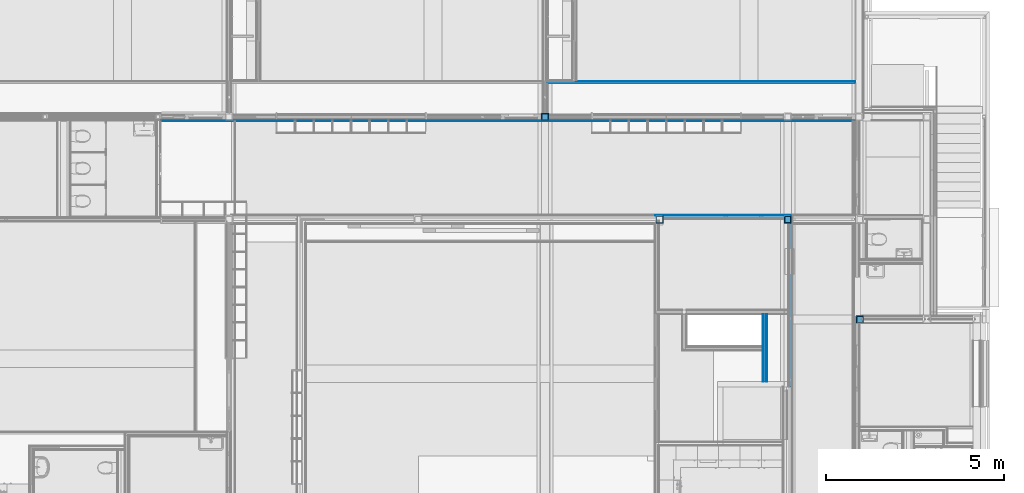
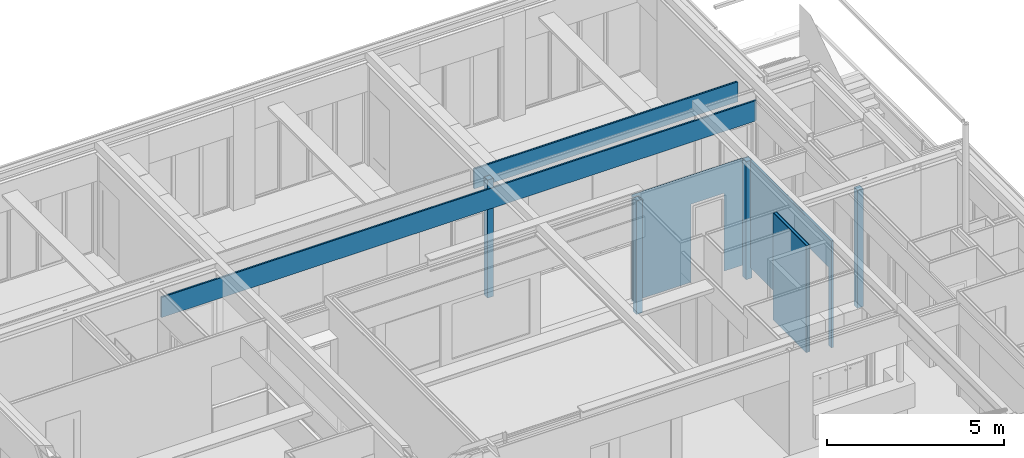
# One storey, part 88 of 165: 18 building element parts, 2 openings, 9 elements without a shape of their own.
"""IFC2X3 building model written with IfcOpenShell, lengths in millimetres."""

from ifc_helpers import new_model, entity, si_unit, converted_unit, derived_unit, money_unit, direction, frame, origin_with_axes, place, context, subcontext, project, spatial, faceted_brep, material, type_object, element, aggregate, save


model = new_model("IFC2X3")

# Units and contexts
model_context = context("Model", 3, precision=0.01, world=origin_with_axes(), true_north=direction((0.0, 1.0)))
body_context = subcontext(model_context, "Body", "Model", "MODEL_VIEW")
ifc_project = project(units=[si_unit("LENGTHUNIT", "METRE", prefix="MILLI"), si_unit("AREAUNIT", "SQUARE_METRE"), si_unit("VOLUMEUNIT", "CUBIC_METRE"), converted_unit("PLANEANGLEUNIT", "DEGREE", entity("IfcPlaneAngleMeasure", 0.0174532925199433), si_unit("PLANEANGLEUNIT", "RADIAN"), dimensions=[0, 0, 0, 0, 0, 0, 0]), money_unit("EUR"), converted_unit("TIMEUNIT", "Year", entity("IfcTimeMeasure", 31556926.0), si_unit("TIMEUNIT", "SECOND"), dimensions=[0, 0, 1, 0, 0, 0, 0]), si_unit("MASSUNIT", "GRAM", prefix="KILO"), si_unit("THERMODYNAMICTEMPERATUREUNIT", "DEGREE_CELSIUS"), si_unit("LUMINOUSINTENSITYUNIT", "LUMEN"), si_unit("ENERGYUNIT", "JOULE", prefix="MEGA"), derived_unit("THERMALCONDUCTANCEUNIT", [(si_unit("POWERUNIT", "WATT"), 1), (si_unit("LENGTHUNIT", "METRE"), -1), (si_unit("THERMODYNAMICTEMPERATUREUNIT", "KELVIN"), -1)]), derived_unit("SPECIFICHEATCAPACITYUNIT", [(si_unit("ENERGYUNIT", "JOULE"), 1), (si_unit("MASSUNIT", "GRAM", prefix="KILO"), -1), (si_unit("THERMODYNAMICTEMPERATUREUNIT", "KELVIN"), -1)]), derived_unit("MASSDENSITYUNIT", [(si_unit("MASSUNIT", "GRAM", prefix="KILO"), 1), (si_unit("VOLUMEUNIT", "CUBIC_METRE"), -1)])], contexts=[model_context])

# Site, building, storey
site_placement = place(None, origin_with_axes())
site = spatial("IfcSite", under=ifc_project, at=site_placement, Name="Site", CompositionType="ELEMENT")
building_placement = place(site_placement, origin_with_axes())
building = spatial("IfcBuilding", under=site, at=building_placement, Name="Naam gebouw", CompositionType="ELEMENT")
storey_placement = place(building_placement, origin_with_axes())
storey = spatial("IfcBuildingStorey", under=building, at=storey_placement, Name="Begane grond", CompositionType="ELEMENT", Elevation=0.0)

# Column, building element parts
column_type = type_object("IfcColumnType", Name="200X200X10 200 x 200", PredefinedType="COLUMN")
column_1_placement = place(storey_placement, frame((17699.99942456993, 22324.99984707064, -480.0), z_axis=(0.0, 0.0, 1.0), x_axis=(1.0, 0.0, 0.0)))
column_1 = element("IfcColumn", 1, at=column_1_placement, inside=storey, type_object=column_type, Name="28_Kolom-x", ObjectType="COLUMN")
ifc_material_1 = material(Name="Metaal - Staal C")
building_element_part_1_placement = place(column_1_placement, origin_with_axes())
building_element_part_1 = element("IfcBuildingElementPart", 2, at=building_element_part_1_placement, material=ifc_material_1, Name="Metaal - Staal C", context=body_context, shape_type="Brep", body=[
    faceted_brep([(-100.0000000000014, -100.0000000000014, 0.0), (100.0000000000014, -100.0000000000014, 0.0), (100.0000000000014, -100.0000000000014, 4079.999999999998), (-100.0000000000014, -100.0000000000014, 4079.999999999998), (-100.0000000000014, 100.0000000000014, 0.0), (100.0000000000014, 100.0000000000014, 0.0), (-89.99999999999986, -89.99999999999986, 0.0), (89.99999999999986, -89.99999999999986, 0.0), (89.99999999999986, 89.99999999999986, 0.0), (-89.99999999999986, 89.99999999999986, 0.0), (100.0000000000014, 100.0000000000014, 4079.999999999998), (-100.0000000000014, 100.0000000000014, 4079.999999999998), (-89.99999999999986, -89.99999999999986, 4079.999999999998), (-89.99999999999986, 89.99999999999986, 4079.999999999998), (89.99999999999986, 89.99999999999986, 4079.999999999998), (89.99999999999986, -89.99999999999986, 4079.999999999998)], [[[0, 1, 2, 3]], [[0, 4, 5, 1], [6, 7, 8, 9]], [[1, 5, 10, 2]], [[3, 2, 10, 11], [12, 13, 14, 15]], [[4, 0, 3, 11]], [[5, 4, 11, 10]], [[7, 6, 12, 15]], [[8, 7, 15, 14]], [[9, 8, 14, 13]], [[6, 9, 13, 12]]]),
])
ifc_material_2 = material(Name="Beton gewapend C")
building_element_part_2_placement = place(column_1_placement, origin_with_axes())
building_element_part_2 = element("IfcBuildingElementPart", 3, at=building_element_part_2_placement, material=ifc_material_2, Name="Beton gewapend C", context=body_context, shape_type="Brep", body=[
    faceted_brep([(-89.99999999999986, 89.99999999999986, 4055.000002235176), (89.99999999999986, 89.99999999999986, 4055.000002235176), (89.99999999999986, 89.99999999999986, 0.0), (-89.99999999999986, 89.99999999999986, 0.0), (89.99999999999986, -89.99999999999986, 4055.000002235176), (-89.99999999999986, -89.99999999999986, 4055.000002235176), (89.99999999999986, -89.99999999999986, 0.0), (-89.99999999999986, -89.99999999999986, 0.0)], [[[0, 1, 2, 3]], [[4, 1, 0, 5]], [[1, 4, 6, 2]], [[2, 6, 7, 3]], [[5, 0, 3, 7]], [[4, 5, 7, 6]]]),
    faceted_brep([(89.99999999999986, -89.99999999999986, 4075.000002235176), (89.99999999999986, 89.99999999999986, 4075.000002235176), (89.99999999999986, 89.99999999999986, 4079.999999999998), (89.99999999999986, -89.99999999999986, 4079.999999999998), (-89.99999999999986, 89.99999999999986, 4075.000002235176), (-89.99999999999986, -89.99999999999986, 4075.000002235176), (-89.99999999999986, 89.99999999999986, 4079.999999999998), (-89.99999999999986, -89.99999999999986, 4079.999999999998)], [[[0, 1, 2, 3]], [[4, 1, 0, 5]], [[1, 4, 6, 2]], [[2, 6, 7, 3]], [[5, 0, 3, 7]], [[4, 5, 7, 6]]]),
])
aggregate(column_1, [building_element_part_1, building_element_part_2])

# Column, building element part
column_2_placement = place(storey_placement, frame((20909.99793409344, 19449.99981118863, -425.0000000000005), z_axis=(0.0, 0.0, 1.0), x_axis=(1.0, 0.0, 0.0)))
column_2 = element("IfcColumn", 4, at=column_2_placement, inside=storey, type_object=column_type, Name="28_Kolom-x", ObjectType="COLUMN")
building_element_part_3_placement = place(column_2_placement, origin_with_axes())
building_element_part_3 = element("IfcBuildingElementPart", 5, at=building_element_part_3_placement, material=ifc_material_1, Name="Metaal - Staal C", context=body_context, shape_type="Brep", body=[
    faceted_brep([(-100.0000000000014, -100.0000000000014, 0.0), (100.0000000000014, -100.0000000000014, 0.0), (100.0000000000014, -100.0000000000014, 3919.999999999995), (-100.0000000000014, -100.0000000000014, 3919.999999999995), (-100.0000000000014, 100.0000000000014, 0.0), (100.0000000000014, 100.0000000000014, 0.0), (-89.99999999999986, -89.99999999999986, 0.0), (89.99999999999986, -89.99999999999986, 0.0), (89.99999999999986, 89.99999999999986, 0.0), (-89.99999999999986, 89.99999999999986, 0.0), (100.0000000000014, 100.0000000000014, 3919.999999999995), (-100.0000000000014, 100.0000000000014, 3919.999999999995), (-89.99999999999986, -89.99999999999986, 3919.999999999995), (-89.99999999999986, 89.99999999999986, 3919.999999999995), (89.99999999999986, 89.99999999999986, 3919.999999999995), (89.99999999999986, -89.99999999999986, 3919.999999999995)], [[[0, 1, 2, 3]], [[0, 4, 5, 1], [6, 7, 8, 9]], [[1, 5, 10, 2]], [[3, 2, 10, 11], [12, 13, 14, 15]], [[4, 0, 3, 11]], [[5, 4, 11, 10]], [[7, 6, 12, 15]], [[8, 7, 15, 14]], [[9, 8, 14, 13]], [[6, 9, 13, 12]]]),
])
aggregate(column_2, [building_element_part_3])

# Proxy, opening, building element part
building_element_proxy_type_1 = type_object("IfcBuildingElementProxyType", Name="22 Metal stud 125 125", PredefinedType="NOTDEFINED")
proxy_1_placement = place(storey_placement, frame((24634.99903999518, 19585.00039292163, -100.0), z_axis=(0.0, 0.0, 1.0), x_axis=(-1.0, 0.0, 0.0)))
proxy_1 = element("IfcBuildingElementProxy", 6, at=proxy_1_placement, inside=storey, type_object=building_element_proxy_type_1, Name="_Wand-x")
opening_1_placement = place(proxy_1_placement, frame((1375.015566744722, 0.0, 100.0), z_axis=(0.0, 0.0, 1.0), x_axis=(1.0, 0.0, 0.0)))
element("IfcOpeningElement", 7, at=opening_1_placement, cuts=proxy_1, Name="_01.02", context=body_context, shape_type="Brep", body=[
    faceted_brep([(539.9999999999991, 126.0000000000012, 2600.0), (539.9999999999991, 126.0000000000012, -100.0000000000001), (-539.9999999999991, 126.0000000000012, -100.0000000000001), (-539.9999999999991, 126.0000000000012, 2600.0), (539.9999999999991, -1.000000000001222, 2600.0), (539.9999999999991, -1.000000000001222, -100.0000000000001), (-539.9999999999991, -1.000000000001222, -100.0000000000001), (-539.9999999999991, -1.000000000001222, 2600.0)], [[[0, 1, 2, 3]], [[4, 5, 1, 0]], [[5, 6, 2, 1]], [[6, 7, 3, 2]], [[7, 4, 0, 3]], [[6, 5, 4, 7]]]),
])
ifc_material_3 = material(Name="Gipsplaat")
building_element_part_4_placement = place(proxy_1_placement, origin_with_axes())
building_element_part_4 = element("IfcBuildingElementPart", 8, at=building_element_part_4_placement, material=ifc_material_3, Name="Gipsplaat", context=body_context, shape_type="Brep", body=[
    faceted_brep([(230.0000000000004, 12.49999999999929, 3700.0), (230.0000000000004, 24.99999999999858, 3700.0), (39.99999999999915, 24.99999999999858, 3700.0), (39.99999999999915, 12.49999999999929, 3700.0), (230.0000000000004, 12.49999999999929, 3695.000029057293), (230.0000000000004, 24.99999999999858, 3695.000029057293), (40.0000000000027, 24.99999999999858, 3695.000029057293), (40.0000000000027, 12.49999999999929, 3695.000029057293)], [[[0, 1, 2, 3]], [[1, 0, 4, 5]], [[6, 2, 1, 5]], [[7, 3, 2, 6]], [[4, 0, 3, 7]], [[4, 7, 6, 5]]]),
    faceted_brep([(1915.015566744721, 12.49999999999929, 2700.0), (1915.015566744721, 12.49999999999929, 0.0), (3847.501207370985, 12.49999999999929, 0.0), (3847.501207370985, 12.49999999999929, 3564.999999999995), (3625.001105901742, 12.49999999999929, 3564.999999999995), (3625.001105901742, 12.49999999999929, 3604.999999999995), (3847.501207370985, 12.49999999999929, 3604.999999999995), (3847.501207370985, 12.49999999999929, 3700.0), (236.0000000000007, 12.49999999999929, 3700.0), (236.0000000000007, 12.49999999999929, 3695.000029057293), (335.0000000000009, 12.49999999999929, 3695.000029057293), (335.0000000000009, 12.49999999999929, 3680.000029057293), (12.49999999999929, 12.49999999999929, 3680.000029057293), (12.49999999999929, 12.49999999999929, 0.0), (835.0155667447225, 12.49999999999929, 0.0), (835.0155667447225, 12.49999999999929, 2700.0), (1915.015566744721, 24.99999999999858, 2700.0), (1915.015566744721, 24.99999999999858, 0.0), (3847.501201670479, 24.99999999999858, 0.0), (3847.501201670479, 24.99999999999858, 3564.999999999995), (3625.001105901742, 24.99999999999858, 3564.999999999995), (3625.001105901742, 24.99999999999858, 3604.999999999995), (3847.501201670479, 24.99999999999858, 3604.999999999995), (3847.501201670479, 24.99999999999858, 3700.0), (236.0000000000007, 24.99999999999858, 3700.0), (236.0000000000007, 24.99999999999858, 3695.000029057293), (335.0000000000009, 24.99999999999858, 3695.000029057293), (335.0000000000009, 24.99999999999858, 3680.000029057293), (12.49999999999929, 24.99999999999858, 3680.000029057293), (12.49999999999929, 24.99999999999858, 0.0), (835.0155667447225, 24.99999999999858, 0.0), (835.0155667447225, 24.99999999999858, 2700.0)], [[[0, 1, 2, 3, 4, 5, 6, 7, 8, 9, 10, 11, 12, 13, 14, 15]], [[1, 0, 16, 17]], [[1, 17, 18, 2]], [[3, 2, 18, 19]], [[3, 19, 20, 4]], [[4, 20, 21, 5]], [[5, 21, 22, 6]], [[22, 23, 7, 6]], [[8, 7, 23, 24]], [[8, 24, 25, 9]], [[9, 25, 26, 10]], [[10, 26, 27, 11]], [[12, 11, 27, 28]], [[28, 29, 13, 12]], [[30, 14, 13, 29]], [[15, 14, 30, 31]], [[0, 15, 31, 16]], [[31, 30, 29, 28, 27, 26, 25, 24, 23, 22, 21, 20, 19, 18, 17, 16]]]),
    faceted_brep([(12.49999999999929, 24.99999999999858, 3695.000029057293), (12.49999999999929, 12.49999999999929, 3695.000029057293), (12.49999999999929, 12.49999999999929, 3700.0), (12.49999999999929, 24.99999999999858, 3700.0), (34.00000000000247, 12.49999999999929, 3695.000029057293), (34.00000000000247, 24.99999999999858, 3695.000029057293), (33.99999999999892, 12.49999999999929, 3700.0), (33.99999999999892, 24.99999999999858, 3700.0)], [[[0, 1, 2, 3]], [[4, 1, 0, 5]], [[4, 6, 2, 1]], [[6, 7, 3, 2]], [[5, 0, 3, 7]], [[7, 6, 4, 5]]]),
])
aggregate(proxy_1, [building_element_part_4])

# Column, building element parts
column_3_placement = place(storey_placement, frame((24499.98347325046, 19450.00039292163, -480.0), z_axis=(0.0, 0.0, 1.0), x_axis=(1.0, 0.0, 0.0)))
column_3 = element("IfcColumn", 9, at=column_3_placement, inside=storey, type_object=column_type, Name="28_Kolom-x", ObjectType="COLUMN")
building_element_part_5_placement = place(column_3_placement, origin_with_axes())
building_element_part_5 = element("IfcBuildingElementPart", 10, at=building_element_part_5_placement, material=ifc_material_1, Name="Metaal - Staal C", context=body_context, shape_type="Brep", body=[
    faceted_brep([(-100.0000000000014, -100.0000000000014, 0.0), (100.0000000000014, -100.0000000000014, 0.0), (100.0000000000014, -100.0000000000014, 4079.999999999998), (-100.0000000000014, -100.0000000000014, 4079.999999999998), (-100.0000000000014, 100.0000000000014, 0.0), (100.0000000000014, 100.0000000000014, 0.0), (-89.99999999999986, -89.99999999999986, 0.0), (89.99999999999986, -89.99999999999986, 0.0), (89.99999999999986, 89.99999999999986, 0.0), (-89.99999999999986, 89.99999999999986, 0.0), (100.0000000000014, 100.0000000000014, 4079.999999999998), (-100.0000000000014, 100.0000000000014, 4079.999999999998), (-89.99999999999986, -89.99999999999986, 4079.999999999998), (-89.99999999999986, 89.99999999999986, 4079.999999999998), (89.99999999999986, 89.99999999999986, 4079.999999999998), (89.99999999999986, -89.99999999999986, 4079.999999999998)], [[[0, 1, 2, 3]], [[0, 4, 5, 1], [6, 7, 8, 9]], [[1, 5, 10, 2]], [[3, 2, 10, 11], [12, 13, 14, 15]], [[4, 0, 3, 11]], [[5, 4, 11, 10]], [[7, 6, 12, 15]], [[8, 7, 15, 14]], [[9, 8, 14, 13]], [[6, 9, 13, 12]]]),
])
building_element_part_6_placement = place(column_3_placement, origin_with_axes())
building_element_part_6 = element("IfcBuildingElementPart", 11, at=building_element_part_6_placement, material=ifc_material_2, Name="Beton gewapend C", context=body_context, shape_type="Brep", body=[
    faceted_brep([(-89.99999999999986, 89.99999999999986, 4060.000029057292), (89.99999999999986, 89.99999999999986, 4060.000029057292), (89.99999999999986, 89.99999999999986, 0.0), (-89.99999999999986, 89.99999999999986, 0.0), (89.99999999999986, -89.99999999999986, 4060.000029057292), (-89.99999999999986, -89.99999999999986, 4060.000029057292), (89.99999999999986, -89.99999999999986, 0.0), (-89.99999999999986, -89.99999999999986, 0.0)], [[[0, 1, 2, 3]], [[4, 1, 0, 5]], [[1, 4, 6, 2]], [[2, 6, 7, 3]], [[5, 0, 3, 7]], [[4, 5, 7, 6]]]),
    faceted_brep([(89.99999999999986, -89.99999999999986, 4075.000029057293), (89.99999999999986, 89.99999999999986, 4075.000029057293), (89.99999999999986, 89.99999999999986, 4079.999999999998), (89.99999999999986, -89.99999999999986, 4079.999999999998), (-89.99999999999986, 89.99999999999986, 4075.000029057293), (-89.99999999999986, -89.99999999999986, 4075.000029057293), (-89.99999999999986, 89.99999999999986, 4079.999999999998), (-89.99999999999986, -89.99999999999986, 4079.999999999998)], [[[0, 1, 2, 3]], [[4, 1, 0, 5]], [[1, 4, 6, 2]], [[2, 6, 7, 3]], [[5, 0, 3, 7]], [[4, 5, 7, 6]]]),
])
aggregate(column_3, [building_element_part_5, building_element_part_6])

# Proxy, building element parts
building_element_proxy_type_2 = type_object("IfcBuildingElementProxyType", Name="22 Metal stud 62.5 plafond 63", PredefinedType="NOTDEFINED")
proxy_2_placement = place(storey_placement, frame((26323.50000000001, 22199.97621406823, 2600.0), z_axis=(0.0, 0.0, 1.0), x_axis=(-1.0, 0.0, 0.0)))
proxy_2 = element("IfcBuildingElementProxy", 12, at=proxy_2_placement, inside=storey, type_object=building_element_proxy_type_2, Name="_Wand-x")
building_element_part_7_placement = place(proxy_2_placement, origin_with_axes())
building_element_part_7 = element("IfcBuildingElementPart", 13, at=building_element_part_7_placement, material=ifc_material_3, Name="Gipsplaat", context=body_context, shape_type="Brep", body=[
    faceted_brep([(19393.5, -12.50000000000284, 700.0000000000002), (19393.5, 0.0, 700.0000000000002), (-12.49999999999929, 0.0, 700.0000000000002), (-12.49999999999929, -12.49999999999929, 700.0000000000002), (19393.5, -12.50000000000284, 0.0), (19393.5, 0.0, 0.0), (-12.49999999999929, 0.0, 0.0), (-12.49999999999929, -12.49999999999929, 0.0)], [[[0, 1, 2, 3]], [[0, 4, 5, 1]], [[1, 5, 6, 2]], [[3, 2, 6, 7]], [[4, 0, 3, 7]], [[5, 4, 7, 6]]]),
])
ifc_material_4 = material(Name="ALG - LICHTE SCHEIDINGSWAND")
building_element_part_8_placement = place(proxy_2_placement, origin_with_axes())
building_element_part_8 = element("IfcBuildingElementPart", 14, at=building_element_part_8_placement, material=ifc_material_4, Name="ALG - LICHTE SCHEIDINGSWAND", context=body_context, shape_type="Brep", body=[
    faceted_brep([(19393.5, -62.5, 700.0000000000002), (19393.5, -12.50000000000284, 700.0000000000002), (-62.5, -12.49999999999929, 700.0000000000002), (-62.5, -62.5, 700.0000000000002), (19393.5, -62.5, 0.0), (19393.5, -12.50000000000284, 0.0), (-62.5, -12.49999999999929, 0.0), (-62.5, -62.5, 0.0)], [[[0, 1, 2, 3]], [[0, 4, 5, 1]], [[1, 5, 6, 2]], [[3, 2, 6, 7]], [[4, 0, 3, 7]], [[5, 4, 7, 6]]]),
])
aggregate(proxy_2, [building_element_part_7, building_element_part_8])

proxy_3_placement = place(storey_placement, frame((17762.49942456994, 23324.99984707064, 2600.0), z_axis=(0.0, 0.0, 1.0), x_axis=(1.0, 0.0, 0.0)))
proxy_3 = element("IfcBuildingElementProxy", 15, at=proxy_3_placement, inside=storey, type_object=building_element_proxy_type_2, Name="_Wand-x")
building_element_part_9_placement = place(proxy_3_placement, origin_with_axes())
building_element_part_9 = element("IfcBuildingElementPart", 16, at=building_element_part_9_placement, material=ifc_material_3, Name="Gipsplaat", context=body_context, shape_type="Brep", body=[
    faceted_brep([(8623.500575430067, -12.49999999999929, 12.00000000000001), (8623.500575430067, 0.0, 12.00000000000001), (8623.500575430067, 0.0, 699.9999999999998), (8623.500575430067, -12.49999999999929, 699.9999999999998), (0.0, 0.0, 12.00000000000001), (0.0, -12.49999999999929, 12.00000000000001), (0.0, 0.0, 699.9999999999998), (0.0, -12.49999999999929, 699.9999999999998)], [[[0, 1, 2, 3]], [[4, 1, 0, 5]], [[1, 4, 6, 2]], [[7, 3, 2, 6]], [[5, 0, 3, 7]], [[4, 5, 7, 6]]]),
])
building_element_part_10_placement = place(proxy_3_placement, origin_with_axes())
building_element_part_10 = element("IfcBuildingElementPart", 17, at=building_element_part_10_placement, material=ifc_material_4, Name="ALG - LICHTE SCHEIDINGSWAND", context=body_context, shape_type="Brep", body=[
    faceted_brep([(8623.500575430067, -62.5, 12.00000000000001), (8623.500575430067, -12.49999999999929, 12.00000000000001), (8623.500575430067, -12.49999999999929, 699.9999999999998), (8623.500575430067, -62.5, 699.9999999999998), (0.0, -12.49999999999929, 12.00000000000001), (0.0, -62.5, 12.00000000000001), (0.0, -12.49999999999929, 699.9999999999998), (0.0, -62.5, 699.9999999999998)], [[[0, 1, 2, 3]], [[4, 1, 0, 5]], [[1, 4, 6, 2]], [[7, 3, 2, 6]], [[5, 0, 3, 7]], [[4, 5, 7, 6]]]),
])
aggregate(proxy_3, [building_element_part_9, building_element_part_10])

building_element_proxy_type_3 = type_object("IfcBuildingElementProxyType", Name="22 Metal stud 125 gips 125", PredefinedType="NOTDEFINED")
proxy_4_placement = place(storey_placement, frame((23924.99903999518, 14759.99770206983, -100.0), z_axis=(0.0, 0.0, 1.0), x_axis=(0.0, 1.0, 0.0)))
proxy_4 = element("IfcBuildingElementProxy", 18, at=proxy_4_placement, inside=storey, type_object=building_element_proxy_type_3, Name="_Wand-x")
building_element_part_11_placement = place(proxy_4_placement, origin_with_axes())
building_element_part_11 = element("IfcBuildingElementPart", 19, at=building_element_part_11_placement, material=ifc_material_3, Name="Gipsplaat", context=body_context, shape_type="Brep", body=[
    faceted_brep([(2030.000079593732, 112.5000000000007, 0.0), (150.0000000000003, 112.5000000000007, 0.0), (150.0000000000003, 125.0, 0.0), (2030.000079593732, 125.0, 0.0), (2030.000079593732, 112.5000000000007, 3700.0), (150.0000000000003, 112.5000000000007, 3700.0), (150.0000000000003, 125.0, 3700.0), (2030.000079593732, 125.0, 3700.0)], [[[0, 1, 2, 3]], [[4, 5, 1, 0]], [[2, 1, 5, 6]], [[3, 2, 6, 7]], [[3, 7, 4, 0]], [[7, 6, 5, 4]]]),
])
building_element_part_12_placement = place(proxy_4_placement, origin_with_axes())
building_element_part_12 = element("IfcBuildingElementPart", 20, at=building_element_part_12_placement, material=ifc_material_4, Name="ALG - LICHTE SCHEIDINGSWAND", context=body_context, shape_type="Brep", body=[
    faceted_brep([(2030.000079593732, 24.99999999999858, 0.0), (150.0000000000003, 24.99999999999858, 0.0), (150.0000000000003, 100.0000000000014, 0.0), (2030.000079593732, 100.0000000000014, 0.0), (2030.000079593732, 24.99999999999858, 3700.0), (150.0000000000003, 24.99999999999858, 3700.0), (150.0000000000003, 100.0000000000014, 3700.0), (2030.000079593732, 100.0000000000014, 3700.0)], [[[0, 1, 2, 3]], [[4, 5, 1, 0]], [[2, 1, 5, 6]], [[3, 2, 6, 7]], [[3, 7, 4, 0]], [[7, 6, 5, 4]]]),
])
building_element_part_13_placement = place(proxy_4_placement, origin_with_axes())
building_element_part_13 = element("IfcBuildingElementPart", 21, at=building_element_part_13_placement, material=ifc_material_3, Name="Gipsplaat", context=body_context, shape_type="Brep", body=[
    faceted_brep([(2030.000079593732, 12.49999999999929, 0.0), (150.0000000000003, 12.49999999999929, 0.0), (150.0000000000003, 24.99999999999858, 0.0), (2030.000079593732, 24.99999999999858, 0.0), (2030.000079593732, 12.49999999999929, 3700.0), (150.0000000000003, 12.49999999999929, 3700.0), (150.0000000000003, 24.99999999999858, 3700.0), (2030.000079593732, 24.99999999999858, 3700.0)], [[[0, 1, 2, 3]], [[4, 5, 1, 0]], [[2, 1, 5, 6]], [[3, 2, 6, 7]], [[3, 7, 4, 0]], [[7, 6, 5, 4]]]),
])
building_element_part_14_placement = place(proxy_4_placement, origin_with_axes())
building_element_part_14 = element("IfcBuildingElementPart", 22, at=building_element_part_14_placement, material=ifc_material_3, Name="Gipsplaat", context=body_context, shape_type="Brep", body=[
    faceted_brep([(2030.000079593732, 0.0, 0.0), (150.0000000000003, 0.0, 0.0), (150.0000000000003, 12.49999999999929, 0.0), (2030.000079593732, 12.49999999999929, 0.0), (2030.000079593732, 0.0, 3700.0), (150.0000000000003, 0.0, 3700.0), (150.0000000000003, 12.49999999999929, 3700.0), (2030.000079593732, 12.49999999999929, 3700.0)], [[[0, 1, 2, 3]], [[4, 5, 1, 0]], [[2, 1, 5, 6]], [[3, 2, 6, 7]], [[3, 7, 4, 0]], [[7, 6, 5, 4]]]),
])
building_element_part_15_placement = place(proxy_4_placement, origin_with_axes())
building_element_part_15 = element("IfcBuildingElementPart", 23, at=building_element_part_15_placement, material=ifc_material_3, Name="Gipsplaat", context=body_context, shape_type="Brep", body=[
    faceted_brep([(2030.000079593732, 100.0000000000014, 0.0), (150.0000000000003, 100.0000000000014, 0.0), (150.0000000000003, 112.5000000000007, 0.0), (2030.000079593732, 112.5000000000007, 0.0), (2030.000079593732, 100.0000000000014, 3700.0), (150.0000000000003, 100.0000000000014, 3700.0), (150.0000000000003, 112.5000000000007, 3700.0), (2030.000079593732, 112.5000000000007, 3700.0)], [[[0, 1, 2, 3]], [[4, 5, 1, 0]], [[2, 1, 5, 6]], [[3, 2, 6, 7]], [[3, 7, 4, 0]], [[7, 6, 5, 4]]]),
])
aggregate(proxy_4, [building_element_part_11, building_element_part_12, building_element_part_13, building_element_part_14, building_element_part_15])

# Proxy, opening, building element part
proxy_5_placement = place(storey_placement, frame((24634.99903999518, 14759.99770206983, -100.0), z_axis=(0.0, 0.0, 1.0), x_axis=(0.0, 1.0, 0.0)))
proxy_5 = element("IfcBuildingElementProxy", 24, at=proxy_5_placement, inside=storey, type_object=building_element_proxy_type_1, Name="_Wand-x")
opening_2_placement = place(proxy_5_placement, frame((1054.999999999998, 0.0, 100.0), z_axis=(0.0, 0.0, 1.0), x_axis=(1.0, 0.0, 0.0)))
element("IfcOpeningElement", 25, at=opening_2_placement, cuts=proxy_5, Name="_03.01", context=body_context, shape_type="Brep", body=[
    faceted_brep([(905.0000000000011, 126.0000000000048, 2600.0), (905.0000000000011, 126.0000000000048, -100.0000000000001), (-904.9999999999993, 126.0000000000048, -100.0000000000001), (-904.9999999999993, 126.0000000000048, 2600.0), (905.0000000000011, -1.000000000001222, 2600.0), (905.0000000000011, -1.000000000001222, -100.0000000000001), (-904.9999999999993, -1.000000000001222, -100.0000000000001), (-904.9999999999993, -1.000000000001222, 2600.0)], [[[0, 1, 2, 3]], [[4, 5, 1, 0]], [[5, 6, 2, 1]], [[6, 7, 3, 2]], [[7, 4, 0, 3]], [[6, 5, 4, 7]]]),
])
ifc_material_5 = material(Name="ALG - LICHTE SCHEIDINGSWAND 125")
building_element_part_16_placement = place(proxy_5_placement, origin_with_axes())
building_element_part_16 = element("IfcBuildingElementPart", 26, at=building_element_part_16_placement, material=ifc_material_5, Name="ALG - LICHTE SCHEIDINGSWAND 125", context=body_context, shape_type="Brep", body=[
    faceted_brep([(4590.002690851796, 40.0000000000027, 3695.000029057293), (4590.002690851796, 39.99999999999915, 3699.999999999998), (0.0, 40.0000000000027, 3700.0), (0.0, 40.0000000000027, 3695.000029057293), (4590.002690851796, 99.99999999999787, 3699.999999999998), (4590.002690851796, 99.99999999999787, 3695.000029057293), (0.0, 100.0000000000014, 3700.0), (0.0, 100.0000000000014, 3695.000029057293)], [[[0, 1, 2, 3]], [[4, 1, 0, 5]], [[1, 4, 6, 2]], [[7, 3, 2, 6]], [[5, 0, 3, 7]], [[4, 5, 7, 6]]]),
    faceted_brep([(149.9999999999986, 24.99999999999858, 0.0), (149.9999999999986, 24.99999999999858, 2700.0), (1959.999999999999, 24.99999999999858, 2700.0), (1959.999999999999, 24.99999999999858, 0.0), (4725.002690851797, 24.99999999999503, 0.0), (4725.002690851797, 24.99999999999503, 3680.000029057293), (0.0, 24.99999999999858, 3680.000029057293), (0.0, 24.99999999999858, 0.0), (149.9999999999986, 100.0000000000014, 0.0), (149.9999999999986, 100.0000000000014, 2700.0), (1959.999999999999, 100.0000000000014, 2700.0), (1959.999999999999, 100.0000000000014, 0.0), (4590.002690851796, 99.99999999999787, 0.0), (4590.002690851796, 35.01556674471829, 0.0), (4725.002690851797, 35.01556674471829, 0.0), (4725.002690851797, 35.01556674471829, 3680.000029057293), (4590.002690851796, 35.01556674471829, 3680.000029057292), (4590.002690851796, 99.99999999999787, 3680.000029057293), (0.0, 100.0000000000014, 3680.000029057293), (0.0, 100.0000000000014, 0.0)], [[[0, 1, 2, 3, 4, 5, 6, 7]], [[1, 0, 8, 9]], [[2, 1, 9, 10]], [[3, 2, 10, 11]], [[3, 11, 12, 13, 14, 4]], [[15, 5, 4, 14]], [[6, 5, 15, 16, 17, 18]], [[6, 18, 19, 7]], [[8, 0, 7, 19]], [[9, 8, 19, 18, 17, 12, 11, 10]], [[16, 13, 12, 17]], [[15, 14, 13, 16]]]),
    faceted_brep([(0.0, 24.99999999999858, 3695.000029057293), (4725.002690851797, 24.99999999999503, 3695.000029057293), (4725.002690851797, 24.99999999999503, 3700.0), (0.0, 24.99999999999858, 3700.0), (4725.002690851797, 34.00000000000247, 3695.000029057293), (0.0, 34.00000000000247, 3695.000029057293), (4725.002690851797, 33.99999999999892, 3700.0), (0.0, 34.00000000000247, 3700.0)], [[[0, 1, 2, 3]], [[4, 1, 0, 5]], [[4, 6, 2, 1]], [[6, 7, 3, 2]], [[5, 0, 3, 7]], [[7, 6, 4, 5]]]),
])
aggregate(proxy_5, [building_element_part_16])

# Column, building element parts
column_4_placement = place(storey_placement, frame((26520.0, 16649.99778166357, -480.0), z_axis=(0.0, 0.0, 1.0), x_axis=(1.0, 0.0, 0.0)))
column_4 = element("IfcColumn", 27, at=column_4_placement, inside=storey, type_object=column_type, Name="28_Kolom-x", ObjectType="COLUMN")
building_element_part_17_placement = place(column_4_placement, origin_with_axes())
building_element_part_17 = element("IfcBuildingElementPart", 28, at=building_element_part_17_placement, material=ifc_material_1, Name="Metaal - Staal C", context=body_context, shape_type="Brep", body=[
    faceted_brep([(-100.0000000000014, -100.0000000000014, 0.0), (100.0000000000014, -100.0000000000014, 0.0), (100.0000000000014, -100.0000000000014, 4079.999999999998), (-100.0000000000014, -100.0000000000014, 4079.999999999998), (-100.0000000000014, 100.0000000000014, 0.0), (100.0000000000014, 100.0000000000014, 0.0), (-89.99999999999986, -89.99999999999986, 0.0), (89.99999999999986, -89.99999999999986, 0.0), (89.99999999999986, 89.99999999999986, 0.0), (-89.99999999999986, 89.99999999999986, 0.0), (100.0000000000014, 100.0000000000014, 4079.999999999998), (-100.0000000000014, 100.0000000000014, 4079.999999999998), (-89.99999999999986, -89.99999999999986, 4079.999999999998), (-89.99999999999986, 89.99999999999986, 4079.999999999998), (89.99999999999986, 89.99999999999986, 4079.999999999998), (89.99999999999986, -89.99999999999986, 4079.999999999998)], [[[0, 1, 2, 3]], [[0, 4, 5, 1], [6, 7, 8, 9]], [[1, 5, 10, 2]], [[3, 2, 10, 11], [12, 13, 14, 15]], [[4, 0, 3, 11]], [[5, 4, 11, 10]], [[7, 6, 12, 15]], [[8, 7, 15, 14]], [[9, 8, 14, 13]], [[6, 9, 13, 12]]]),
])
building_element_part_18_placement = place(column_4_placement, origin_with_axes())
building_element_part_18 = element("IfcBuildingElementPart", 29, at=building_element_part_18_placement, material=ifc_material_2, Name="Beton gewapend C", context=body_context, shape_type="Brep", body=[
    faceted_brep([(-89.99999999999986, -89.99999999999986, 4079.999999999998), (-89.99999999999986, -89.99999999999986, 0.0), (89.99999999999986, -89.99999999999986, 0.0), (89.99999999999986, -89.99999999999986, 4079.999999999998), (-89.99999999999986, 89.99999999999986, 4079.999999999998), (-89.99999999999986, 89.99999999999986, 0.0), (89.99999999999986, 89.99999999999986, 0.0), (89.99999999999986, 89.99999999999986, 4079.999999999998)], [[[0, 1, 2, 3]], [[4, 5, 1, 0]], [[2, 1, 5, 6]], [[3, 2, 6, 7]], [[4, 0, 3, 7]], [[7, 6, 5, 4]]]),
])
aggregate(column_4, [building_element_part_17, building_element_part_18])

save(model, "model.ifc")
